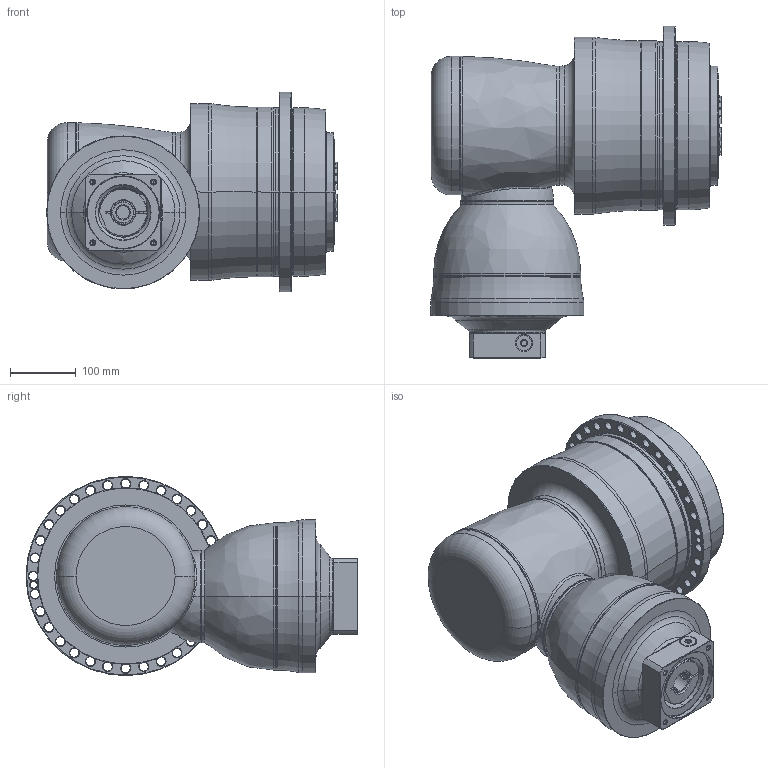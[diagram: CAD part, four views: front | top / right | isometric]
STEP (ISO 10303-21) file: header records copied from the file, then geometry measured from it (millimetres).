
FILE_DESCRIPTION((''),'2;1');
FILE_NAME('APCK255_4ST_32-P0409710201_ASM','2018-05-17T',('d01226'),(''),'PRO/ENGINEER BY PARAMETRIC TECHNOLOGY CORPORATION, 2008410','PRO/ENGINEER BY PARAMETRIC TECHNOLOGY CORPORATION, 2008410','');
FILE_SCHEMA(('CONFIG_CONTROL_DESIGN'));
Length unit declared in the file: millimetre
Products named in the file (13): P1008600002; P1832700001; P0278701003; P0359770103; P1211700001; P1315600001; P1007601001; P1317610201; P0409710201; P0503700010; P0912552001; 21711418017; APCK255_4ST_32-P0409710201_ASM
Assembly tree (12 placements, depth 2):
  APCK255_4ST_32-P0409710201_ASM
    P1008600002
    P1832700001
    P0278701003
    P0359770103
    P1211700001
    P1315600001
    P1007601001
    P1317610201
    P0409710201
    P0503700010
    P0912552001
    21711418017
Bounding box: 440.6 x 503 x 302 mm (x, y, z)
Volume: 23983965.6 mm3; surface area: 1392978.8 mm2
Topology: 13 solids, 25 shells, 813 faces, 1955 edges, 1190 vertices
Faces by surface type: cone 269, cylinder 240, plane 138, torus 129, bspline 35, sphere 2
Entity records: 31057 total; most frequent: CARTESIAN_POINT 11575, DIRECTION 4367, ORIENTED_EDGE 3832, EDGE_CURVE 1941, AXIS2_PLACEMENT_3D 1916, VERTEX_POINT 1190, CIRCLE 1101, EDGE_LOOP 933
